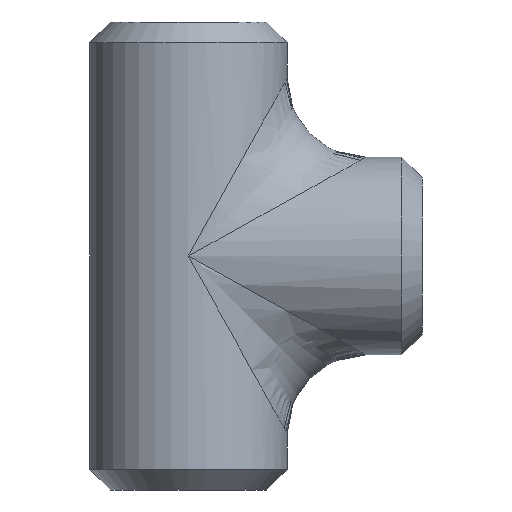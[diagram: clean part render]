
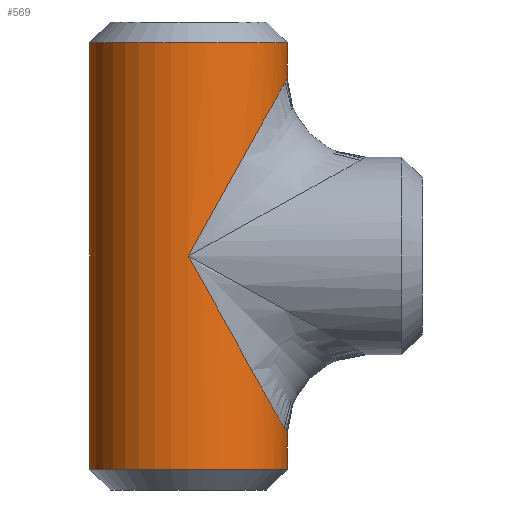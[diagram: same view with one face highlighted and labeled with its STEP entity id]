
A CAD part, front view. The second image highlights one B-rep face of the part: STEP entity #569.
In plain terms, the highlighted cylindrical face has radius 24.15 mm (diameter 48.3 mm), a partial arc.
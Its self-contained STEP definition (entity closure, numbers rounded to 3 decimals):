
#31 = VERTEX_POINT ( 'NONE', #157 ) ;
#45 = ORIENTED_EDGE ( 'NONE', *, *, #669, .F. ) ;
#63 = ORIENTED_EDGE ( 'NONE', *, *, #221, .T. ) ;
#72 = VECTOR ( 'NONE', #398, 1000. ) ;
#83 = VECTOR ( 'NONE', #291, 1000. ) ;
#98 = ORIENTED_EDGE ( 'NONE', *, *, #521, .F. ) ;
#157 = CARTESIAN_POINT ( 'NONE',  ( 24.15, 0., -52.13 ) ) ;
#175 = AXIS2_PLACEMENT_3D ( 'NONE', #294, #718, #198 ) ;
#197 = AXIS2_PLACEMENT_3D ( 'NONE', #950, #765, #643 ) ;
#198 = DIRECTION ( 'NONE',  ( -1., 0., 0. ) ) ;
#199 = CARTESIAN_POINT ( 'NONE',  ( 24.15, 0., 43.47 ) ) ;
#202 = DIRECTION ( 'NONE',  ( 0., 0., -1. ) ) ;
#218 = EDGE_LOOP ( 'NONE', ( #98, #963, #546, #1137, #45, #1253, #63 ) ) ;
#221 = EDGE_CURVE ( 'NONE', #1279, #1081, #325, .T. ) ;
#229 = CARTESIAN_POINT ( 'NONE',  ( 24.15, 0., 43.47 ) ) ;
#243 = DIRECTION ( 'NONE',  ( 0., 0., -1. ) ) ;
#291 = DIRECTION ( 'NONE',  ( 0., 0., -1. ) ) ;
#294 = CARTESIAN_POINT ( 'NONE',  ( 0., 0., 57.2 ) ) ;
#295 = CARTESIAN_POINT ( 'NONE',  ( 0., -24.15, 0. ) ) ;
#298 = LINE ( 'NONE', #723, #873 ) ;
#325 =( BOUNDED_CURVE ( )  B_SPLINE_CURVE ( 3, ( #295, #1132, #524, #199 ),
 .UNSPECIFIED., .F., .T. ) 
 B_SPLINE_CURVE_WITH_KNOTS ( ( 4, 4 ),
 ( 1.571, 3.142 ),
 .UNSPECIFIED. ) 
 CURVE ( )  GEOMETRIC_REPRESENTATION_ITEM ( )  RATIONAL_B_SPLINE_CURVE ( ( 1., 0.805, 0.805, 1. ) ) 
 REPRESENTATION_ITEM ( '' )  );
#348 = VERTEX_POINT ( 'NONE', #946 ) ;
#398 = DIRECTION ( 'NONE',  ( 0., 0., -1. ) ) ;
#403 = AXIS2_PLACEMENT_3D ( 'NONE', #527, #243, #1063 ) ;
#405 = CARTESIAN_POINT ( 'NONE',  ( 24.15, 0., -43.47 ) ) ;
#412 = LINE ( 'NONE', #1051, #83 ) ;
#521 = EDGE_CURVE ( 'NONE', #1016, #1081, #412, .T. ) ;
#522 = FACE_OUTER_BOUND ( 'NONE', #218, .T. ) ;
#524 = CARTESIAN_POINT ( 'NONE',  ( 24.15, -14.147, 43.47 ) ) ;
#527 = CARTESIAN_POINT ( 'NONE',  ( 0., 0., 52.13 ) ) ;
#534 = CARTESIAN_POINT ( 'NONE',  ( 0., -24.15, 0. ) ) ;
#546 = ORIENTED_EDGE ( 'NONE', *, *, #695, .T. ) ;
#569 = ADVANCED_FACE ( 'NONE', ( #522 ), #1021, .T. ) ;
#606 =( BOUNDED_CURVE ( )  B_SPLINE_CURVE ( 3, ( #636, #851, #968, #534 ),
 .UNSPECIFIED., .F., .F. ) 
 B_SPLINE_CURVE_WITH_KNOTS ( ( 4, 4 ),
 ( 3.142, 4.712 ),
 .UNSPECIFIED. ) 
 CURVE ( )  GEOMETRIC_REPRESENTATION_ITEM ( )  RATIONAL_B_SPLINE_CURVE ( ( 1., 0.805, 0.805, 1. ) ) 
 REPRESENTATION_ITEM ( '' )  );
#626 = CIRCLE ( 'NONE', #403, 24.15 ) ;
#636 = CARTESIAN_POINT ( 'NONE',  ( 24.15, 0., -43.47 ) ) ;
#643 = DIRECTION ( 'NONE',  ( 1., 0., 0. ) ) ;
#669 = EDGE_CURVE ( 'NONE', #725, #31, #1129, .T. ) ;
#695 = EDGE_CURVE ( 'NONE', #348, #931, #298, .T. ) ;
#718 = DIRECTION ( 'NONE',  ( 0., 0., -1. ) ) ;
#723 = CARTESIAN_POINT ( 'NONE',  ( -24.15, 0., 57.2 ) ) ;
#725 = VERTEX_POINT ( 'NONE', #405 ) ;
#765 = DIRECTION ( 'NONE',  ( 0., 0., 1. ) ) ;
#769 = EDGE_CURVE ( 'NONE', #1016, #348, #626, .T. ) ;
#796 = CARTESIAN_POINT ( 'NONE',  ( 0., -24.15, 0. ) ) ;
#851 = CARTESIAN_POINT ( 'NONE',  ( 24.15, -14.147, -43.47 ) ) ;
#873 = VECTOR ( 'NONE', #202, 1000. ) ;
#931 = VERTEX_POINT ( 'NONE', #1276 ) ;
#935 = EDGE_CURVE ( 'NONE', #931, #31, #1326, .T. ) ;
#946 = CARTESIAN_POINT ( 'NONE',  ( -24.15, 0., 52.13 ) ) ;
#950 = CARTESIAN_POINT ( 'NONE',  ( 0., 0., -52.13 ) ) ;
#963 = ORIENTED_EDGE ( 'NONE', *, *, #769, .T. ) ;
#968 = CARTESIAN_POINT ( 'NONE',  ( 14.147, -24.15, -25.464 ) ) ;
#997 = EDGE_CURVE ( 'NONE', #725, #1279, #606, .T. ) ;
#1016 = VERTEX_POINT ( 'NONE', #1261 ) ;
#1021 = CYLINDRICAL_SURFACE ( 'NONE', #175, 24.15 ) ;
#1051 = CARTESIAN_POINT ( 'NONE',  ( 24.15, 0., 57.2 ) ) ;
#1063 = DIRECTION ( 'NONE',  ( 1., 0., 0. ) ) ;
#1081 = VERTEX_POINT ( 'NONE', #229 ) ;
#1129 = LINE ( 'NONE', #1335, #72 ) ;
#1132 = CARTESIAN_POINT ( 'NONE',  ( 14.147, -24.15, 25.464 ) ) ;
#1137 = ORIENTED_EDGE ( 'NONE', *, *, #935, .T. ) ;
#1253 = ORIENTED_EDGE ( 'NONE', *, *, #997, .T. ) ;
#1261 = CARTESIAN_POINT ( 'NONE',  ( 24.15, 0., 52.13 ) ) ;
#1276 = CARTESIAN_POINT ( 'NONE',  ( -24.15, 0., -52.13 ) ) ;
#1279 = VERTEX_POINT ( 'NONE', #796 ) ;
#1326 = CIRCLE ( 'NONE', #197, 24.15 ) ;
#1335 = CARTESIAN_POINT ( 'NONE',  ( 24.15, 0., 57.2 ) ) ;
